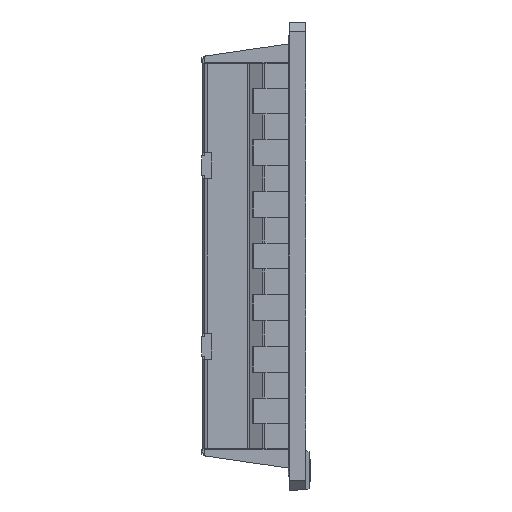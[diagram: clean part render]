
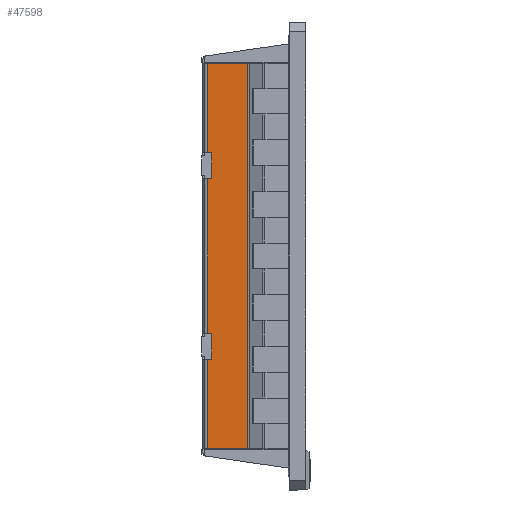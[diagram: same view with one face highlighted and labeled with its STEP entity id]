
A CAD part, left-side view. The second image highlights one B-rep face of the part: STEP entity #47598.
In plain terms, the highlighted planar face has unit normal (-1, 0, 0).
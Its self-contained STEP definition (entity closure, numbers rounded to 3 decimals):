
#1467 = VERTEX_POINT ( 'NONE', #28755 ) ;
#2252 = ORIENTED_EDGE ( 'NONE', *, *, #47132, .F. ) ;
#2489 = CARTESIAN_POINT ( 'NONE',  ( -62.25, 28.25, -32. ) ) ;
#4769 = CARTESIAN_POINT ( 'NONE',  ( -62.25, 28.25, 59.75 ) ) ;
#6888 = ORIENTED_EDGE ( 'NONE', *, *, #43956, .T. ) ;
#8019 = CARTESIAN_POINT ( 'NONE',  ( -62.25, 28.25, -24. ) ) ;
#8096 = CARTESIAN_POINT ( 'NONE',  ( -62.25, 2.5, 59.75 ) ) ;
#8236 = AXIS2_PLACEMENT_3D ( 'NONE', #30387, #25565, #67738 ) ;
#8245 = EDGE_CURVE ( 'NONE', #59466, #20792, #53492, .T. ) ;
#8571 = CARTESIAN_POINT ( 'NONE',  ( -62.25, 15.783, -59.75 ) ) ;
#8617 = ORIENTED_EDGE ( 'NONE', *, *, #52401, .F. ) ;
#9107 = LINE ( 'NONE', #8096, #32810 ) ;
#10362 = EDGE_CURVE ( 'NONE', #17057, #46042, #23234, .T. ) ;
#11012 = CARTESIAN_POINT ( 'NONE',  ( -62.25, 26.885, 24. ) ) ;
#11329 = EDGE_CURVE ( 'NONE', #1467, #47867, #16357, .T. ) ;
#11711 = ORIENTED_EDGE ( 'NONE', *, *, #52770, .F. ) ;
#12313 = ORIENTED_EDGE ( 'NONE', *, *, #11329, .T. ) ;
#12930 = VECTOR ( 'NONE', #48149, 1000. ) ;
#14124 = EDGE_CURVE ( 'NONE', #67753, #56755, #32283, .T. ) ;
#14303 = CARTESIAN_POINT ( 'NONE',  ( -62.25, 26.885, 32. ) ) ;
#14689 = ORIENTED_EDGE ( 'NONE', *, *, #8245, .F. ) ;
#15211 = VECTOR ( 'NONE', #63874, 1000. ) ;
#16003 = DIRECTION ( 'NONE',  ( 0., 0., -1. ) ) ;
#16357 = LINE ( 'NONE', #54043, #35158 ) ;
#17057 = VERTEX_POINT ( 'NONE', #8571 ) ;
#17755 = ORIENTED_EDGE ( 'NONE', *, *, #53562, .F. ) ;
#18169 = DIRECTION ( 'NONE',  ( 0., 1., 0. ) ) ;
#18361 = LINE ( 'NONE', #44315, #31234 ) ;
#19984 = CARTESIAN_POINT ( 'NONE',  ( -62.25, 26.885, 24. ) ) ;
#20403 = VECTOR ( 'NONE', #49930, 1000. ) ;
#20792 = VERTEX_POINT ( 'NONE', #4769 ) ;
#22358 = EDGE_CURVE ( 'NONE', #67753, #1467, #24345, .T. ) ;
#23234 = LINE ( 'NONE', #44320, #37303 ) ;
#23392 = VECTOR ( 'NONE', #18169, 1000. ) ;
#24345 = LINE ( 'NONE', #39227, #20403 ) ;
#25565 = DIRECTION ( 'NONE',  ( 1., 0., 0. ) ) ;
#25623 = CARTESIAN_POINT ( 'NONE',  ( -62.25, 28.25, 32. ) ) ;
#27054 = CARTESIAN_POINT ( 'NONE',  ( -62.25, 29.25, -59.75 ) ) ;
#28211 = LINE ( 'NONE', #65891, #23392 ) ;
#28755 = CARTESIAN_POINT ( 'NONE',  ( -62.25, 26.885, -24. ) ) ;
#28827 = VECTOR ( 'NONE', #63910, 1000. ) ;
#29665 = ORIENTED_EDGE ( 'NONE', *, *, #14124, .F. ) ;
#30387 = CARTESIAN_POINT ( 'NONE',  ( -62.25, 29.25, 59.75 ) ) ;
#31081 = FACE_OUTER_BOUND ( 'NONE', #68329, .T. ) ;
#31234 = VECTOR ( 'NONE', #54357, 1000. ) ;
#32100 = ORIENTED_EDGE ( 'NONE', *, *, #10362, .T. ) ;
#32283 = LINE ( 'NONE', #59624, #36813 ) ;
#32810 = VECTOR ( 'NONE', #66187, 1000. ) ;
#32919 = VERTEX_POINT ( 'NONE', #51245 ) ;
#34342 = DIRECTION ( 'NONE',  ( 0., 1., 0. ) ) ;
#35158 = VECTOR ( 'NONE', #16003, 1000. ) ;
#35864 = CARTESIAN_POINT ( 'NONE',  ( -62.25, 15.783, 59.75 ) ) ;
#35878 = DIRECTION ( 'NONE',  ( 0., -1., 0. ) ) ;
#36813 = VECTOR ( 'NONE', #59953, 1000. ) ;
#37272 = LINE ( 'NONE', #11012, #28827 ) ;
#37303 = VECTOR ( 'NONE', #43995, 1000. ) ;
#37998 = VECTOR ( 'NONE', #35878, 1000. ) ;
#38342 = CARTESIAN_POINT ( 'NONE',  ( -62.25, 26.885, -32. ) ) ;
#39218 = LINE ( 'NONE', #14303, #64803 ) ;
#39227 = CARTESIAN_POINT ( 'NONE',  ( -62.25, 26.885, -24. ) ) ;
#40746 = CARTESIAN_POINT ( 'NONE',  ( -62.25, 26.885, 32. ) ) ;
#40951 = ORIENTED_EDGE ( 'NONE', *, *, #22358, .T. ) ;
#41118 = EDGE_CURVE ( 'NONE', #55864, #47181, #37272, .T. ) ;
#41750 = CARTESIAN_POINT ( 'NONE',  ( -62.25, 28.25, 59.75 ) ) ;
#43956 = EDGE_CURVE ( 'NONE', #47867, #52815, #28211, .T. ) ;
#43995 = DIRECTION ( 'NONE',  ( 0., 0., 1. ) ) ;
#44315 = CARTESIAN_POINT ( 'NONE',  ( -62.25, 28.25, 59.75 ) ) ;
#44320 = CARTESIAN_POINT ( 'NONE',  ( -62.25, 15.783, 59.75 ) ) ;
#45603 = EDGE_CURVE ( 'NONE', #32919, #52815, #18361, .T. ) ;
#46042 = VERTEX_POINT ( 'NONE', #35864 ) ;
#47132 = EDGE_CURVE ( 'NONE', #56755, #55864, #62520, .T. ) ;
#47181 = VERTEX_POINT ( 'NONE', #40746 ) ;
#47598 = ADVANCED_FACE ( 'NONE', ( #31081 ), #56685, .F. ) ;
#47867 = VERTEX_POINT ( 'NONE', #38342 ) ;
#48149 = DIRECTION ( 'NONE',  ( 0., 1., 0. ) ) ;
#48695 = ORIENTED_EDGE ( 'NONE', *, *, #41118, .F. ) ;
#49930 = DIRECTION ( 'NONE',  ( 0., -1., 0. ) ) ;
#51245 = CARTESIAN_POINT ( 'NONE',  ( -62.25, 28.25, -59.75 ) ) ;
#52401 = EDGE_CURVE ( 'NONE', #47181, #59466, #39218, .T. ) ;
#52770 = EDGE_CURVE ( 'NONE', #17057, #32919, #58535, .T. ) ;
#52815 = VERTEX_POINT ( 'NONE', #2489 ) ;
#53492 = LINE ( 'NONE', #41750, #15211 ) ;
#53562 = EDGE_CURVE ( 'NONE', #20792, #46042, #9107, .T. ) ;
#54043 = CARTESIAN_POINT ( 'NONE',  ( -62.25, 26.885, -24. ) ) ;
#54357 = DIRECTION ( 'NONE',  ( 0., 0., 1. ) ) ;
#55864 = VERTEX_POINT ( 'NONE', #56070 ) ;
#56070 = CARTESIAN_POINT ( 'NONE',  ( -62.25, 26.885, 24. ) ) ;
#56685 = PLANE ( 'NONE',  #8236 ) ;
#56755 = VERTEX_POINT ( 'NONE', #68320 ) ;
#57566 = ORIENTED_EDGE ( 'NONE', *, *, #45603, .F. ) ;
#58535 = LINE ( 'NONE', #27054, #12930 ) ;
#59466 = VERTEX_POINT ( 'NONE', #25623 ) ;
#59624 = CARTESIAN_POINT ( 'NONE',  ( -62.25, 28.25, 59.75 ) ) ;
#59953 = DIRECTION ( 'NONE',  ( 0., 0., 1. ) ) ;
#62520 = LINE ( 'NONE', #19984, #37998 ) ;
#63874 = DIRECTION ( 'NONE',  ( 0., 0., 1. ) ) ;
#63910 = DIRECTION ( 'NONE',  ( 0., 0., 1. ) ) ;
#64803 = VECTOR ( 'NONE', #34342, 1000. ) ;
#65891 = CARTESIAN_POINT ( 'NONE',  ( -62.25, 26.885, -32. ) ) ;
#66187 = DIRECTION ( 'NONE',  ( 0., -1., 0. ) ) ;
#67738 = DIRECTION ( 'NONE',  ( 0., 1., 0. ) ) ;
#67753 = VERTEX_POINT ( 'NONE', #8019 ) ;
#68320 = CARTESIAN_POINT ( 'NONE',  ( -62.25, 28.25, 24. ) ) ;
#68329 = EDGE_LOOP ( 'NONE', ( #14689, #8617, #48695, #2252, #29665, #40951, #12313, #6888, #57566, #11711, #32100, #17755 ) ) ;
